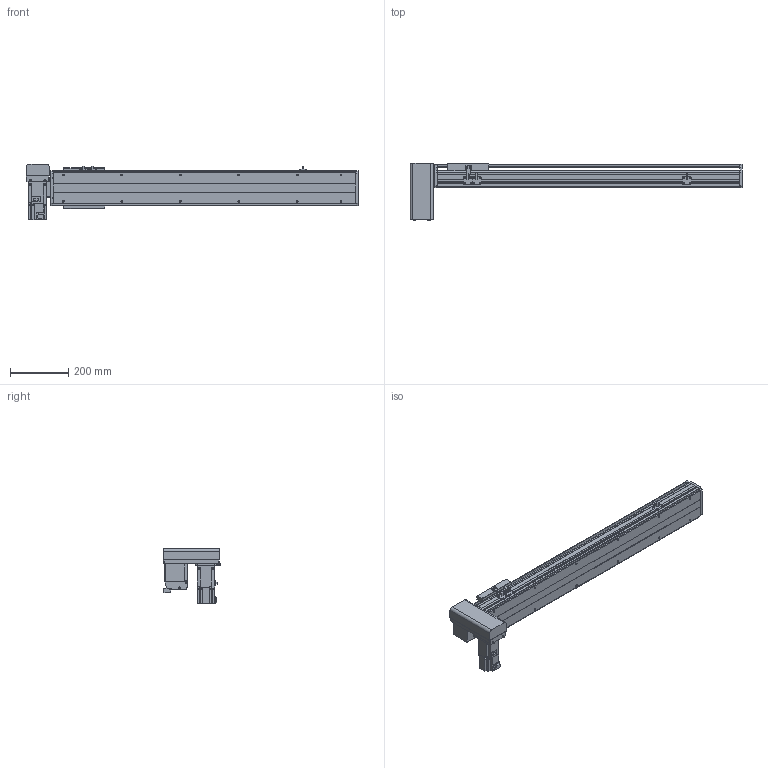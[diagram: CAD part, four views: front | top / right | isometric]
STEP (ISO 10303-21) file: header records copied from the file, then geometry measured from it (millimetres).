
FILE_DESCRIPTION(/* description */ ('STEP AP214'),/* implementation_level */ '2;1');
FILE_NAME(/* name */ 'PBS120-P40-S750-RD-T40-C1-N(0)',/* time_stamp */ '2022-06-06T02:41:09+02:00',/* author */ ('License CC BY-ND 4.0'),/* organization */ ('CADENAS'),/* preprocessor_version */ 'ST-DEVELOPER v18.102',/* originating_system */ 'PARTsolutions',/* authorisation */ ' ');
FILE_SCHEMA (('AUTOMOTIVE_DESIGN {1 0 10303 214 3 1 1}'));
Length unit declared in the file: millimetre
Products named in the file (7): PBS120-P40-S750-RD-T40-C1-N(0); PBS120_sensor; PBS120_plant; PBS120_sliser; T40-p1; PBS120T-RD_motors; PBS120-S750()_body
Assembly tree (8 placements, depth 2):
  PBS120-P40-S750-RD-T40-C1-N(0)
    PBS120_sensor  x3
    PBS120_plant
    PBS120_sliser
    T40-p1
    PBS120T-RD_motors
    PBS120-S750()_body
Bounding box: 1136 x 196 x 189.7 mm (x, y, z)
Volume: 5147558.2 mm3; surface area: 984197.2 mm2
Topology: 8 solids, 8 shells, 816 faces, 2136 edges, 1375 vertices
Faces by surface type: plane 545, cylinder 225, cone 44, torus 2
Full cylindrical faces by diameter (mm): 2.459 x6, 3.242 x4, 4 x2, 4.134 x4, 4.5 x10, 4.917 x16, 5.5 x11, 6 x2, 6.6 x1, 7 x2, 8.5 x4, 9 x4, 12 x1, 14 x1, 30 x2, 40 x1, 50 x2
Entity records: 21354 total; most frequent: DIRECTION 3692, CARTESIAN_POINT 3641, ORIENTED_EDGE 3478, EDGE_CURVE 1739, AXIS2_PLACEMENT_3D 1232, LINE 1228, VECTOR 1228, VERTEX_POINT 1181
